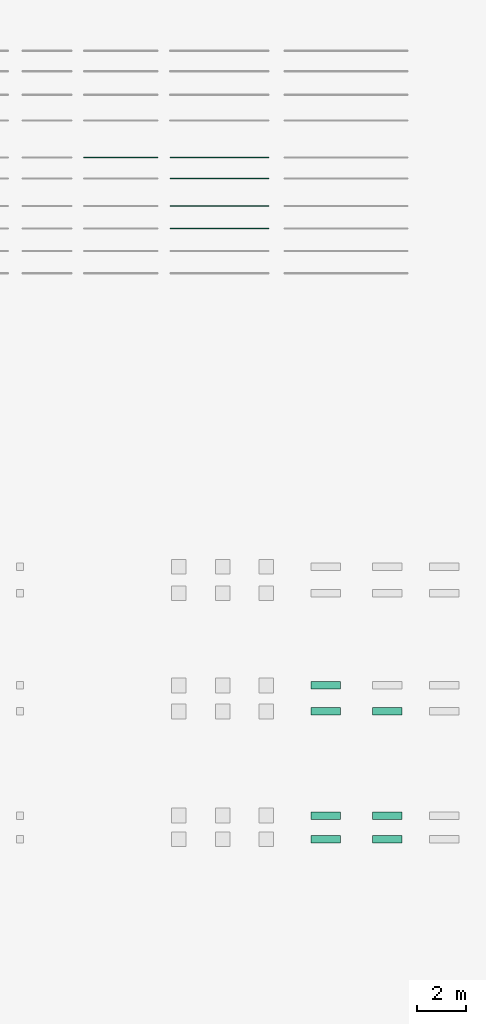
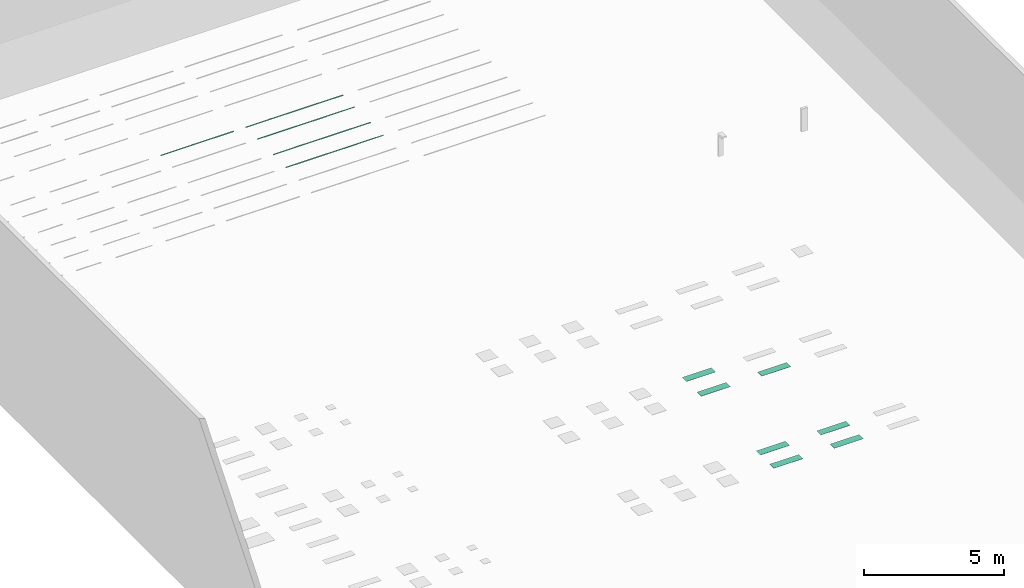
# One storey, part 8 of 197: 12 flow terminals.
"""IFC2X3 building model written with IfcOpenShell, lengths in metres."""

from ifc_helpers import new_model, entity, si_unit, converted_unit, direction, frame, frame_2d, origin, origin_2d_with_axis, place, context, subcontext, project, spatial, polyline, rectangle, circle, outline, extrude, source, transform, mapped, material, material_list, type_object, type_shapes, element, save


model = new_model("IFC2X3")

# Units and contexts
model_context = context("Model", 3, precision=1e-05, world=origin(), true_north=direction((6.123031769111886e-17, 1.0)))
body_context = subcontext(model_context, "Body", "Model", "MODEL_VIEW")
ifc_project = project(units=[si_unit("LENGTHUNIT", "METRE"), converted_unit("PLANEANGLEUNIT", "DEGREE", entity("IfcPlaneAngleMeasure", 0.017453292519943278), si_unit("PLANEANGLEUNIT", "RADIAN"), dimensions=[0, 0, 0, 0, 0, 0, 0]), si_unit("AREAUNIT", "SQUARE_METRE")], contexts=[model_context])

# Site, building, storey
site_placement = place(None, origin())
site = spatial("IfcSite", under=ifc_project, at=site_placement, Name="Default", CompositionType="ELEMENT")
building_placement = place(site_placement, origin())
building = spatial("IfcBuilding", under=site, at=building_placement, CompositionType="ELEMENT")
storey_placement = place(building_placement, origin())
storey = spatial("IfcBuildingStorey", under=building, at=storey_placement, Name="Niveau 0", CompositionType="ELEMENT", Elevation=0.0)

# Flow terminals
ifc_material_1 = material(Name="BETCE-DIFFUSEUR-BLANC")
ifc_material_2 = material(Name="<Unnamed>")
ifc_material_list_1 = material_list([ifc_material_1, ifc_material_2])
light_fixture_type_1 = type_object("IfcLightFixtureType", Name="Profilé alu sailli_suspendu_engravure-20X20:PROF-SAILLIE -3M", PredefinedType="NOTDEFINED", material=ifc_material_list_1)
shared_shape_1 = source(origin(), body_context, "Body", "SweptSolid", [
    extrude(rectangle(XDim=2.9959999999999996, YDim=0.018935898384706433, at=origin_2d_with_axis()), frame((0.0, 0.0, 1.4999999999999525), z_axis=(0.0, 0.0, 1.0), x_axis=(-1.0, 0.0, 0.0)), (0.0, 0.0, 1.0), 0.0008000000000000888),
    extrude(outline(polyline([(0.004349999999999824, -0.009467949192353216), (0.0051499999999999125, -0.009467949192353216), (0.0051499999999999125, 0.009467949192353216), (0.004349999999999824, 0.009467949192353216), (0.004349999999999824, 0.010467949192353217), (-0.0138500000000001, 0.010467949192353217), (-0.0138500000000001, -0.010467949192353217), (0.004349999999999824, -0.010467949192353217), (0.004349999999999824, -0.009467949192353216)])), frame((1.4979999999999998, 0.0, 1.5051499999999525), z_axis=(1.0, 0.0, 0.0), x_axis=(0.0, 0.0, -1.0)), (0.0, 0.0, 1.0), 0.0020000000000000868),
    extrude(outline(polyline([(0.009467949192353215, -0.004349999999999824), (0.010467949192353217, -0.004349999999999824), (0.010467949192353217, 0.0138500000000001), (-0.010467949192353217, 0.0138500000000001), (-0.010467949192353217, -0.004349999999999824), (-0.009467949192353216, -0.004349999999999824), (-0.009467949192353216, -0.0051499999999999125), (0.009467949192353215, -0.0051499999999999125), (0.009467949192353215, -0.004349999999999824)])), frame((-1.4999999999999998, 0.0, 1.5051499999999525), z_axis=(1.0, 0.0, 0.0), x_axis=(0.0, 1.0, 0.0)), (0.0, 0.0, 1.0), 0.0020000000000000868),
    extrude(outline(polyline([(-0.012292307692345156, -0.011500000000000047), (0.007707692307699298, -0.011500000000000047), (0.007707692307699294, -0.009467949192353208), (0.0069076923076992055, -0.009467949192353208), (0.006907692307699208, -0.010467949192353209), (-0.011292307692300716, -0.010467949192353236), (-0.011292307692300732, 0.0), (-0.011292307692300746, 0.010467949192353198), (0.006907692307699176, 0.010467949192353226), (0.006907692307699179, 0.009467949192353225), (0.0077076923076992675, 0.009467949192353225), (0.007707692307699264, 0.011500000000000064), (-0.012292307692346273, 0.011500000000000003), (-0.012292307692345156, -0.011500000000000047)])), frame((-1.4999999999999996, 0.0, 1.5077076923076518), z_axis=(1.0, 0.0, 0.0), x_axis=(0.0, 0.0, -1.0)), (0.0, 0.0, 1.0), 2.9999999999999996),
    extrude(circle(Radius=0.0019999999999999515, at=frame_2d((1.5388467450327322e-29, 0.0), x_axis=(1.0, 0.0))), frame((-1.3999999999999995, 0.0, 1.5199999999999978), z_axis=(0.0, 0.0, 1.0), x_axis=(0.0, -1.0, 0.0)), (0.0, 0.0, 1.0), 0.0010000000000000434),
    extrude(circle(Radius=0.0019999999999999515, at=frame_2d((-4.123551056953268e-20, 0.0), x_axis=(1.0, 0.0))), frame((1.4000000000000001, 0.0, 1.5199999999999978), z_axis=(0.0, 0.0, 1.0), x_axis=(0.0, -1.0, 0.0)), (0.0, 0.0, 1.0), 0.0010000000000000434),
])
type_shapes(light_fixture_type_1, [shared_shape_1])
flow_terminal_1_placement = place(storey_placement, frame((-527.4987105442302, 64.29268111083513, 0.0)))
element("IfcFlowTerminal", 1, at=flow_terminal_1_placement, inside=storey, type_object=light_fixture_type_1, material=ifc_material_list_1, Name="Profilé alu sailli_suspendu_engravure-20X20:PROF-SAILLIE -3M", ObjectType="Profilé alu sailli_suspendu_engravure-20X20:PROF-SAILLIE -3M", context=body_context, shape_type="MappedRepresentation", body=[
    mapped(shared_shape_1, transform((0.0, 0.0, 0.0), scale=1.0)),
])
light_fixture_type_2 = type_object("IfcLightFixtureType", Name="Profilé alu sailli_suspendu_engravure-20X20:PROF-SAILLIE -4M", PredefinedType="NOTDEFINED", material=ifc_material_list_1)
shared_shape_2 = source(origin(), body_context, "Body", "SweptSolid", [
    extrude(rectangle(XDim=3.9959999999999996, YDim=0.018935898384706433, at=origin_2d_with_axis()), frame((0.0, 0.0, 1.4999999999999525), z_axis=(0.0, 0.0, 1.0), x_axis=(-1.0, 0.0, 0.0)), (0.0, 0.0, 1.0), 0.0008000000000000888),
    extrude(outline(polyline([(0.004349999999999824, -0.009467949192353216), (0.0051499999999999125, -0.009467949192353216), (0.0051499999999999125, 0.009467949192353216), (0.004349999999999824, 0.009467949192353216), (0.004349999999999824, 0.010467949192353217), (-0.0138500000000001, 0.010467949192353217), (-0.0138500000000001, -0.010467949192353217), (0.004349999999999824, -0.010467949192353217), (0.004349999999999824, -0.009467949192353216)])), frame((1.998, 0.0, 1.5051499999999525), z_axis=(1.0, 0.0, 0.0), x_axis=(0.0, 0.0, -1.0)), (0.0, 0.0, 1.0), 0.0020000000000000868),
    extrude(outline(polyline([(0.009467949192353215, -0.004349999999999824), (0.010467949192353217, -0.004349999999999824), (0.010467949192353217, 0.0138500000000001), (-0.010467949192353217, 0.0138500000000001), (-0.010467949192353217, -0.004349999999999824), (-0.009467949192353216, -0.004349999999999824), (-0.009467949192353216, -0.0051499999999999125), (0.009467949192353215, -0.0051499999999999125), (0.009467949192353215, -0.004349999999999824)])), frame((-2.0, 0.0, 1.5051499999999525), z_axis=(1.0, 0.0, 0.0), x_axis=(0.0, 1.0, 0.0)), (0.0, 0.0, 1.0), 0.0020000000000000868),
    extrude(outline(polyline([(-0.012292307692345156, -0.011500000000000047), (0.007707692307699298, -0.011500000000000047), (0.007707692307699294, -0.009467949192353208), (0.0069076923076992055, -0.009467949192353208), (0.006907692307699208, -0.010467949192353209), (-0.011292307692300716, -0.010467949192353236), (-0.011292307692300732, 0.0), (-0.011292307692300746, 0.010467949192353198), (0.006907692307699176, 0.010467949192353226), (0.006907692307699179, 0.009467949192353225), (0.0077076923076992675, 0.009467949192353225), (0.007707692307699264, 0.011500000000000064), (-0.012292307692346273, 0.011500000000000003), (-0.012292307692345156, -0.011500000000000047)])), frame((-2.0, 0.0, 1.5077076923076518), z_axis=(1.0, 0.0, 0.0), x_axis=(0.0, 0.0, -1.0)), (0.0, 0.0, 1.0), 3.9999999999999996),
    extrude(circle(Radius=0.0019999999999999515, at=frame_2d((1.5388467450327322e-29, 0.0), x_axis=(1.0, 0.0))), frame((-1.8999999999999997, 0.0, 1.5199999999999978), z_axis=(0.0, 0.0, 1.0), x_axis=(0.0, -1.0, 0.0)), (0.0, 0.0, 1.0), 0.0010000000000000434),
    extrude(circle(Radius=0.0019999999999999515, at=frame_2d((-4.123551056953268e-20, 0.0), x_axis=(1.0, 0.0))), frame((1.9000000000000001, 0.0, 1.5199999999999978), z_axis=(0.0, 0.0, 1.0), x_axis=(0.0, -1.0, 0.0)), (0.0, 0.0, 1.0), 0.0010000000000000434),
])
type_shapes(light_fixture_type_2, [shared_shape_2])
flow_terminal_2_placement = place(storey_placement, frame((-523.4967105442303, 64.29268111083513, 0.0)))
element("IfcFlowTerminal", 2, at=flow_terminal_2_placement, inside=storey, type_object=light_fixture_type_2, material=ifc_material_list_1, Name="Profilé alu sailli_suspendu_engravure-20X20:PROF-SAILLIE -4M", ObjectType="Profilé alu sailli_suspendu_engravure-20X20:PROF-SAILLIE -4M", context=body_context, shape_type="MappedRepresentation", body=[
    mapped(shared_shape_2, transform((0.0, 0.0, 0.0), scale=1.0)),
])
light_fixture_type_3 = type_object("IfcLightFixtureType", Name="Profilé alu sailli_suspendu_engravure-20X20:PROF-SAILLIE DALI -4M", PredefinedType="NOTDEFINED", material=ifc_material_list_1)
shared_shape_3 = source(origin(), body_context, "Body", "SweptSolid", [
    extrude(rectangle(XDim=3.9959999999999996, YDim=0.018935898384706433, at=origin_2d_with_axis()), frame((0.0, 0.0, 1.4999999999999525), z_axis=(0.0, 0.0, 1.0), x_axis=(-1.0, 0.0, 0.0)), (0.0, 0.0, 1.0), 0.0008000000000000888),
    extrude(outline(polyline([(0.004349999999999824, -0.009467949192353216), (0.0051499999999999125, -0.009467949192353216), (0.0051499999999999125, 0.009467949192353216), (0.004349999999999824, 0.009467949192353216), (0.004349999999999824, 0.010467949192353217), (-0.0138500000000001, 0.010467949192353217), (-0.0138500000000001, -0.010467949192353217), (0.004349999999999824, -0.010467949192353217), (0.004349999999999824, -0.009467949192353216)])), frame((1.998, 0.0, 1.5051499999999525), z_axis=(1.0, 0.0, 0.0), x_axis=(0.0, 0.0, -1.0)), (0.0, 0.0, 1.0), 0.0020000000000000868),
    extrude(outline(polyline([(0.009467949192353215, -0.004349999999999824), (0.010467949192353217, -0.004349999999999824), (0.010467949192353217, 0.0138500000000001), (-0.010467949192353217, 0.0138500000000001), (-0.010467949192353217, -0.004349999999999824), (-0.009467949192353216, -0.004349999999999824), (-0.009467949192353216, -0.0051499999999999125), (0.009467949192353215, -0.0051499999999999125), (0.009467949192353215, -0.004349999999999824)])), frame((-2.0, 0.0, 1.5051499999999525), z_axis=(1.0, 0.0, 0.0), x_axis=(0.0, 1.0, 0.0)), (0.0, 0.0, 1.0), 0.0020000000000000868),
    extrude(outline(polyline([(-0.012292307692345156, -0.011500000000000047), (0.007707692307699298, -0.011500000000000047), (0.007707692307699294, -0.009467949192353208), (0.0069076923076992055, -0.009467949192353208), (0.006907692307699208, -0.010467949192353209), (-0.011292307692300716, -0.010467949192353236), (-0.011292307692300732, 0.0), (-0.011292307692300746, 0.010467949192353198), (0.006907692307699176, 0.010467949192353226), (0.006907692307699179, 0.009467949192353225), (0.0077076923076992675, 0.009467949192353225), (0.007707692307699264, 0.011500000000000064), (-0.012292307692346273, 0.011500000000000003), (-0.012292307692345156, -0.011500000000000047)])), frame((-2.0, 0.0, 1.5077076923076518), z_axis=(1.0, 0.0, 0.0), x_axis=(0.0, 0.0, -1.0)), (0.0, 0.0, 1.0), 3.9999999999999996),
    extrude(circle(Radius=0.0019999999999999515, at=frame_2d((1.5388467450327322e-29, 0.0), x_axis=(1.0, 0.0))), frame((-1.8999999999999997, 0.0, 1.5199999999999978), z_axis=(0.0, 0.0, 1.0), x_axis=(0.0, -1.0, 0.0)), (0.0, 0.0, 1.0), 0.0010000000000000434),
    extrude(circle(Radius=0.0019999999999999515, at=frame_2d((-4.123551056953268e-20, 0.0), x_axis=(1.0, 0.0))), frame((1.9000000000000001, 0.0, 1.5199999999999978), z_axis=(0.0, 0.0, 1.0), x_axis=(0.0, -1.0, 0.0)), (0.0, 0.0, 1.0), 0.0010000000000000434),
])
type_shapes(light_fixture_type_3, [shared_shape_3])
flow_terminal_3_placement = place(storey_placement, frame((-523.4967105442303, 63.44635524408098, 0.0)))
element("IfcFlowTerminal", 3, at=flow_terminal_3_placement, inside=storey, type_object=light_fixture_type_3, material=ifc_material_list_1, Name="Profilé alu sailli_suspendu_engravure-20X20:PROF-SAILLIE DALI -4M", ObjectType="Profilé alu sailli_suspendu_engravure-20X20:PROF-SAILLIE DALI -4M", context=body_context, shape_type="MappedRepresentation", body=[
    mapped(shared_shape_3, transform((0.0, 0.0, 0.0), scale=1.0)),
])
light_fixture_type_4 = type_object("IfcLightFixtureType", Name="Profilé alu sailli_suspendu_engravure-20X20:PROF-SUSPENDU -4M", PredefinedType="NOTDEFINED", material=ifc_material_list_1)
shared_shape_4 = source(origin(), body_context, "Body", "SweptSolid", [
    extrude(rectangle(XDim=3.9959999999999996, YDim=0.018935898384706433, at=origin_2d_with_axis()), frame((0.0, 0.0, 1.4999999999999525), z_axis=(0.0, 0.0, 1.0), x_axis=(-1.0, 0.0, 0.0)), (0.0, 0.0, 1.0), 0.0008000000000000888),
    extrude(outline(polyline([(0.004349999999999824, -0.009467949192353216), (0.0051499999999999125, -0.009467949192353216), (0.0051499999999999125, 0.009467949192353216), (0.004349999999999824, 0.009467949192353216), (0.004349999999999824, 0.010467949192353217), (-0.0138500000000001, 0.010467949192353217), (-0.0138500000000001, -0.010467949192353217), (0.004349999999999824, -0.010467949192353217), (0.004349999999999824, -0.009467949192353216)])), frame((1.998, 0.0, 1.5051499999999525), z_axis=(1.0, 0.0, 0.0), x_axis=(0.0, 0.0, -1.0)), (0.0, 0.0, 1.0), 0.0020000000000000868),
    extrude(outline(polyline([(0.009467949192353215, -0.004349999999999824), (0.010467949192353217, -0.004349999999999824), (0.010467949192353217, 0.0138500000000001), (-0.010467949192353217, 0.0138500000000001), (-0.010467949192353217, -0.004349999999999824), (-0.009467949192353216, -0.004349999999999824), (-0.009467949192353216, -0.0051499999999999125), (0.009467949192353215, -0.0051499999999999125), (0.009467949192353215, -0.004349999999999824)])), frame((-2.0, 0.0, 1.5051499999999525), z_axis=(1.0, 0.0, 0.0), x_axis=(0.0, 1.0, 0.0)), (0.0, 0.0, 1.0), 0.0020000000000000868),
    extrude(outline(polyline([(-0.012292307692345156, -0.011500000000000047), (0.007707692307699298, -0.011500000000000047), (0.007707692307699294, -0.009467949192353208), (0.0069076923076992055, -0.009467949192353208), (0.006907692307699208, -0.010467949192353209), (-0.011292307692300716, -0.010467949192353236), (-0.011292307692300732, 0.0), (-0.011292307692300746, 0.010467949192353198), (0.006907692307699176, 0.010467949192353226), (0.006907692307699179, 0.009467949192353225), (0.0077076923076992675, 0.009467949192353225), (0.007707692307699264, 0.011500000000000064), (-0.012292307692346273, 0.011500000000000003), (-0.012292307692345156, -0.011500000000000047)])), frame((-2.0, 0.0, 1.5077076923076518), z_axis=(1.0, 0.0, 0.0), x_axis=(0.0, 0.0, -1.0)), (0.0, 0.0, 1.0), 3.9999999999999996),
    extrude(circle(Radius=0.0019999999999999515, at=frame_2d((1.5388467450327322e-29, 0.0), x_axis=(1.0, 0.0))), frame((-1.8999999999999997, 0.0, 1.5199999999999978), z_axis=(0.0, 0.0, 1.0), x_axis=(0.0, -1.0, 0.0)), (0.0, 0.0, 1.0), 0.0010000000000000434),
    extrude(circle(Radius=0.0019999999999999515, at=frame_2d((-4.123551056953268e-20, 0.0), x_axis=(1.0, 0.0))), frame((1.9000000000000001, 0.0, 1.5199999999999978), z_axis=(0.0, 0.0, 1.0), x_axis=(0.0, -1.0, 0.0)), (0.0, 0.0, 1.0), 0.0010000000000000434),
])
type_shapes(light_fixture_type_4, [shared_shape_4])
flow_terminal_4_placement = place(storey_placement, frame((-523.4967105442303, 62.331355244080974, 0.0)))
element("IfcFlowTerminal", 4, at=flow_terminal_4_placement, inside=storey, type_object=light_fixture_type_4, material=ifc_material_list_1, Name="Profilé alu sailli_suspendu_engravure-20X20:PROF-SUSPENDU -4M", ObjectType="Profilé alu sailli_suspendu_engravure-20X20:PROF-SUSPENDU -4M", context=body_context, shape_type="MappedRepresentation", body=[
    mapped(shared_shape_4, transform((0.0, 0.0, 0.0), scale=1.0)),
])
light_fixture_type_5 = type_object("IfcLightFixtureType", Name="Profilé alu sailli_suspendu_engravure-20X20:PROF-SUSPENDU DALI -4M", PredefinedType="NOTDEFINED", material=ifc_material_list_1)
shared_shape_5 = source(origin(), body_context, "Body", "SweptSolid", [
    extrude(rectangle(XDim=3.9959999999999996, YDim=0.018935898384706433, at=origin_2d_with_axis()), frame((0.0, 0.0, 1.4999999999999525), z_axis=(0.0, 0.0, 1.0), x_axis=(-1.0, 0.0, 0.0)), (0.0, 0.0, 1.0), 0.0008000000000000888),
    extrude(outline(polyline([(0.004349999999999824, -0.009467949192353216), (0.0051499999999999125, -0.009467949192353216), (0.0051499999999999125, 0.009467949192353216), (0.004349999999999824, 0.009467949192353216), (0.004349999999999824, 0.010467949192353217), (-0.0138500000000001, 0.010467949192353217), (-0.0138500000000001, -0.010467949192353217), (0.004349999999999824, -0.010467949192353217), (0.004349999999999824, -0.009467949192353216)])), frame((1.998, 0.0, 1.5051499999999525), z_axis=(1.0, 0.0, 0.0), x_axis=(0.0, 0.0, -1.0)), (0.0, 0.0, 1.0), 0.0020000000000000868),
    extrude(outline(polyline([(0.009467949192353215, -0.004349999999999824), (0.010467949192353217, -0.004349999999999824), (0.010467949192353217, 0.0138500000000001), (-0.010467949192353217, 0.0138500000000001), (-0.010467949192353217, -0.004349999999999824), (-0.009467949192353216, -0.004349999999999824), (-0.009467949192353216, -0.0051499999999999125), (0.009467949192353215, -0.0051499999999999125), (0.009467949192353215, -0.004349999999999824)])), frame((-2.0, 0.0, 1.5051499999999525), z_axis=(1.0, 0.0, 0.0), x_axis=(0.0, 1.0, 0.0)), (0.0, 0.0, 1.0), 0.0020000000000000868),
    extrude(outline(polyline([(-0.012292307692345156, -0.011500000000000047), (0.007707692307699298, -0.011500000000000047), (0.007707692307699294, -0.009467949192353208), (0.0069076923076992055, -0.009467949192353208), (0.006907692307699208, -0.010467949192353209), (-0.011292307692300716, -0.010467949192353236), (-0.011292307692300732, 0.0), (-0.011292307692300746, 0.010467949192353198), (0.006907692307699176, 0.010467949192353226), (0.006907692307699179, 0.009467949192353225), (0.0077076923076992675, 0.009467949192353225), (0.007707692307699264, 0.011500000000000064), (-0.012292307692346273, 0.011500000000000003), (-0.012292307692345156, -0.011500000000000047)])), frame((-2.0, 0.0, 1.5077076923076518), z_axis=(1.0, 0.0, 0.0), x_axis=(0.0, 0.0, -1.0)), (0.0, 0.0, 1.0), 3.9999999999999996),
    extrude(circle(Radius=0.0019999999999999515, at=frame_2d((1.5388467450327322e-29, 0.0), x_axis=(1.0, 0.0))), frame((-1.8999999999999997, 0.0, 1.5199999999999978), z_axis=(0.0, 0.0, 1.0), x_axis=(0.0, -1.0, 0.0)), (0.0, 0.0, 1.0), 0.0010000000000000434),
    extrude(circle(Radius=0.0019999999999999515, at=frame_2d((-4.123551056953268e-20, 0.0), x_axis=(1.0, 0.0))), frame((1.9000000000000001, 0.0, 1.5199999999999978), z_axis=(0.0, 0.0, 1.0), x_axis=(0.0, -1.0, 0.0)), (0.0, 0.0, 1.0), 0.0010000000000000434),
])
type_shapes(light_fixture_type_5, [shared_shape_5])
flow_terminal_5_placement = place(storey_placement, frame((-523.4967105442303, 61.41235524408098, 0.0)))
element("IfcFlowTerminal", 5, at=flow_terminal_5_placement, inside=storey, type_object=light_fixture_type_5, material=ifc_material_list_1, Name="Profilé alu sailli_suspendu_engravure-20X20:PROF-SUSPENDU DALI -4M", ObjectType="Profilé alu sailli_suspendu_engravure-20X20:PROF-SUSPENDU DALI -4M", context=body_context, shape_type="MappedRepresentation", body=[
    mapped(shared_shape_5, transform((0.0, 0.0, 0.0), scale=1.0)),
])
ifc_material_3 = material(Name="BETCE-ENVELOPPE-BLANC")
ifc_material_list_2 = material_list([ifc_material_2, ifc_material_1, ifc_material_3])
light_fixture_type_6 = type_object("IfcLightFixtureType", Name="Pavé LED lentille encastré_saillie_suspendu:SAILLIE - 1200X300 - 1L DE 16", PredefinedType="NOTDEFINED", material=ifc_material_list_2)
shared_shape_6 = source(origin(), body_context, "Body", "SweptSolid", [
    extrude(circle(Radius=0.0014999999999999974, at=origin_2d_with_axis()), frame((0.5899999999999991, -0.14000000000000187, 1.51)), (0.0, 0.0, 1.0), 0.0010000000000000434),
    extrude(circle(Radius=0.0014999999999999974, at=origin_2d_with_axis()), frame((0.5899999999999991, 0.13999999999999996, 1.51)), (0.0, 0.0, 1.0), 0.0010000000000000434),
    extrude(circle(Radius=0.0014999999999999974, at=origin_2d_with_axis()), frame((-0.59, 0.13999999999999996, 1.51)), (0.0, 0.0, 1.0), 0.0010000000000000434),
    extrude(circle(Radius=0.0014999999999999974, at=origin_2d_with_axis()), frame((-0.59, -0.14000000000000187, 1.51)), (0.0, 0.0, 1.0), 0.0010000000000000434),
    extrude(rectangle(XDim=1.16, YDim=0.26, at=origin_2d_with_axis()), frame((0.0, 0.0, 1.5013367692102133), z_axis=(0.0, 0.0, 1.0), x_axis=(-1.0, 0.0, 0.0)), (0.0, 0.0, 1.0), 0.008663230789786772),
    extrude(outline(polyline([(-0.6, -0.15), (0.6, -0.15), (0.6, 0.15), (-0.6, 0.15), (-0.6, -0.15)]), holes=[polyline([(0.58, -0.13), (-0.5800000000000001, -0.13), (-0.5800000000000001, 0.13), (0.58, 0.13), (0.58, -0.13)])]), frame((0.0, 0.0, 1.499999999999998), z_axis=(0.0, 0.0, 1.0), x_axis=(-1.0, 0.0, 0.0)), (0.0, 0.0, 1.0), 0.010000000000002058),
])
type_shapes(light_fixture_type_6, [shared_shape_6])
flow_terminal_6_placement = place(storey_placement, frame((-519.1857105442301, 42.89135524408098, 0.0)))
element("IfcFlowTerminal", 6, at=flow_terminal_6_placement, inside=storey, type_object=light_fixture_type_6, material=ifc_material_list_2, Name="Pavé LED lentille encastré_saillie_suspendu:SAILLIE - 1200X300 - 1L DE 16", ObjectType="Pavé LED lentille encastré_saillie_suspendu:SAILLIE - 1200X300 - 1L DE 16", context=body_context, shape_type="MappedRepresentation", body=[
    mapped(shared_shape_6, transform((0.0, 0.0, 0.0), scale=1.0)),
])
light_fixture_type_7 = type_object("IfcLightFixtureType", Name="Pavé LED lentille encastré_saillie_suspendu:SAILLIE DALI - 1200X300 - 1L DE 16", PredefinedType="NOTDEFINED", material=ifc_material_list_2)
shared_shape_7 = source(origin(), body_context, "Body", "SweptSolid", [
    extrude(circle(Radius=0.0014999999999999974, at=origin_2d_with_axis()), frame((0.5899999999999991, -0.14000000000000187, 1.51)), (0.0, 0.0, 1.0), 0.0010000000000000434),
    extrude(circle(Radius=0.0014999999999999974, at=origin_2d_with_axis()), frame((0.5899999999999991, 0.13999999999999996, 1.51)), (0.0, 0.0, 1.0), 0.0010000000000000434),
    extrude(circle(Radius=0.0014999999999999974, at=origin_2d_with_axis()), frame((-0.59, 0.13999999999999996, 1.51)), (0.0, 0.0, 1.0), 0.0010000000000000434),
    extrude(circle(Radius=0.0014999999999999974, at=origin_2d_with_axis()), frame((-0.59, -0.14000000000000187, 1.51)), (0.0, 0.0, 1.0), 0.0010000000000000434),
    extrude(rectangle(XDim=1.16, YDim=0.26, at=origin_2d_with_axis()), frame((0.0, 0.0, 1.5013367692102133), z_axis=(0.0, 0.0, 1.0), x_axis=(-1.0, 0.0, 0.0)), (0.0, 0.0, 1.0), 0.008663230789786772),
    extrude(outline(polyline([(-0.6, -0.15), (0.6, -0.15), (0.6, 0.15), (-0.6, 0.15), (-0.6, -0.15)]), holes=[polyline([(0.58, -0.13), (-0.5800000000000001, -0.13), (-0.5800000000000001, 0.13), (0.58, 0.13), (0.58, -0.13)])]), frame((0.0, 0.0, 1.499999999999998), z_axis=(0.0, 0.0, 1.0), x_axis=(-1.0, 0.0, 0.0)), (0.0, 0.0, 1.0), 0.010000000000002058),
])
type_shapes(light_fixture_type_7, [shared_shape_7])
flow_terminal_7_placement = place(storey_placement, frame((-519.1857105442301, 41.83535524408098, 0.0)))
element("IfcFlowTerminal", 7, at=flow_terminal_7_placement, inside=storey, type_object=light_fixture_type_7, material=ifc_material_list_2, Name="Pavé LED lentille encastré_saillie_suspendu:SAILLIE DALI - 1200X300 - 1L DE 16", ObjectType="Pavé LED lentille encastré_saillie_suspendu:SAILLIE DALI - 1200X300 - 1L DE 16", context=body_context, shape_type="MappedRepresentation", body=[
    mapped(shared_shape_7, transform((0.0, 0.0, 0.0), scale=1.0)),
])
light_fixture_type_8 = type_object("IfcLightFixtureType", Name="Pavé LED lentille encastré_saillie_suspendu:SAILLIE DALI - 1200X300 - 2L DE 8", PredefinedType="NOTDEFINED", material=ifc_material_list_2)
shared_shape_8 = source(origin(), body_context, "Body", "SweptSolid", [
    extrude(circle(Radius=0.0014999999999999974, at=origin_2d_with_axis()), frame((0.5899999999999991, -0.14000000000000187, 1.51)), (0.0, 0.0, 1.0), 0.0010000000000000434),
    extrude(circle(Radius=0.0014999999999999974, at=origin_2d_with_axis()), frame((0.5899999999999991, 0.13999999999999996, 1.51)), (0.0, 0.0, 1.0), 0.0010000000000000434),
    extrude(circle(Radius=0.0014999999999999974, at=origin_2d_with_axis()), frame((-0.59, 0.13999999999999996, 1.51)), (0.0, 0.0, 1.0), 0.0010000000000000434),
    extrude(circle(Radius=0.0014999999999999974, at=origin_2d_with_axis()), frame((-0.59, -0.14000000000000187, 1.51)), (0.0, 0.0, 1.0), 0.0010000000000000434),
    extrude(rectangle(XDim=1.16, YDim=0.26, at=origin_2d_with_axis()), frame((0.0, 0.0, 1.5013367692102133), z_axis=(0.0, 0.0, 1.0), x_axis=(-1.0, 0.0, 0.0)), (0.0, 0.0, 1.0), 0.008663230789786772),
    extrude(outline(polyline([(-0.6, -0.15), (0.6, -0.15), (0.6, 0.15), (-0.6, 0.15), (-0.6, -0.15)]), holes=[polyline([(0.58, -0.13), (-0.5800000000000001, -0.13), (-0.5800000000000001, 0.13), (0.58, 0.13), (0.58, -0.13)])]), frame((0.0, 0.0, 1.499999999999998), z_axis=(0.0, 0.0, 1.0), x_axis=(-1.0, 0.0, 0.0)), (0.0, 0.0, 1.0), 0.010000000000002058),
])
type_shapes(light_fixture_type_8, [shared_shape_8])
flow_terminal_8_placement = place(storey_placement, frame((-516.6957105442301, 41.83535524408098, 0.0)))
element("IfcFlowTerminal", 8, at=flow_terminal_8_placement, inside=storey, type_object=light_fixture_type_8, material=ifc_material_list_2, Name="Pavé LED lentille encastré_saillie_suspendu:SAILLIE DALI - 1200X300 - 2L DE 8", ObjectType="Pavé LED lentille encastré_saillie_suspendu:SAILLIE DALI - 1200X300 - 2L DE 8", context=body_context, shape_type="MappedRepresentation", body=[
    mapped(shared_shape_8, transform((0.0, 0.0, 0.0), scale=1.0)),
])
light_fixture_type_9 = type_object("IfcLightFixtureType", Name="Pavé LED lentille encastré_saillie_suspendu:SUSPENDU - 1200X300 - 1L DE 16", PredefinedType="NOTDEFINED", material=ifc_material_list_2)
shared_shape_9 = source(origin(), body_context, "Body", "SweptSolid", [
    extrude(circle(Radius=0.0014999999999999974, at=origin_2d_with_axis()), frame((0.5899999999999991, -0.14000000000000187, 1.51)), (0.0, 0.0, 1.0), 0.0010000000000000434),
    extrude(circle(Radius=0.0014999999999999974, at=origin_2d_with_axis()), frame((0.5899999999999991, 0.13999999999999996, 1.51)), (0.0, 0.0, 1.0), 0.0010000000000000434),
    extrude(circle(Radius=0.0014999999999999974, at=origin_2d_with_axis()), frame((-0.59, 0.13999999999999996, 1.51)), (0.0, 0.0, 1.0), 0.0010000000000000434),
    extrude(circle(Radius=0.0014999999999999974, at=origin_2d_with_axis()), frame((-0.59, -0.14000000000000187, 1.51)), (0.0, 0.0, 1.0), 0.0010000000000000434),
    extrude(rectangle(XDim=1.16, YDim=0.26, at=origin_2d_with_axis()), frame((0.0, 0.0, 1.5013367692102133), z_axis=(0.0, 0.0, 1.0), x_axis=(-1.0, 0.0, 0.0)), (0.0, 0.0, 1.0), 0.008663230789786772),
    extrude(outline(polyline([(-0.6, -0.15), (0.6, -0.15), (0.6, 0.15), (-0.6, 0.15), (-0.6, -0.15)]), holes=[polyline([(0.58, -0.13), (-0.5800000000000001, -0.13), (-0.5800000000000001, 0.13), (0.58, 0.13), (0.58, -0.13)])]), frame((0.0, 0.0, 1.499999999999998), z_axis=(0.0, 0.0, 1.0), x_axis=(-1.0, 0.0, 0.0)), (0.0, 0.0, 1.0), 0.010000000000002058),
])
type_shapes(light_fixture_type_9, [shared_shape_9])
flow_terminal_9_placement = place(storey_placement, frame((-519.1857105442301, 37.61435524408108, 0.0)))
element("IfcFlowTerminal", 9, at=flow_terminal_9_placement, inside=storey, type_object=light_fixture_type_9, material=ifc_material_list_2, Name="Pavé LED lentille encastré_saillie_suspendu:SUSPENDU - 1200X300 - 1L DE 16", ObjectType="Pavé LED lentille encastré_saillie_suspendu:SUSPENDU - 1200X300 - 1L DE 16", context=body_context, shape_type="MappedRepresentation", body=[
    mapped(shared_shape_9, transform((0.0, 0.0, 0.0), scale=1.0)),
])
light_fixture_type_10 = type_object("IfcLightFixtureType", Name="Pavé LED lentille encastré_saillie_suspendu:SUSPENDU - 1200X300 - 2L DE 8", PredefinedType="NOTDEFINED", material=ifc_material_list_2)
shared_shape_10 = source(origin(), body_context, "Body", "SweptSolid", [
    extrude(circle(Radius=0.0014999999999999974, at=origin_2d_with_axis()), frame((0.5899999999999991, -0.14000000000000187, 1.51)), (0.0, 0.0, 1.0), 0.0010000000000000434),
    extrude(circle(Radius=0.0014999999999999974, at=origin_2d_with_axis()), frame((0.5899999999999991, 0.13999999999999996, 1.51)), (0.0, 0.0, 1.0), 0.0010000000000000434),
    extrude(circle(Radius=0.0014999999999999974, at=origin_2d_with_axis()), frame((-0.59, 0.13999999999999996, 1.51)), (0.0, 0.0, 1.0), 0.0010000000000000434),
    extrude(circle(Radius=0.0014999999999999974, at=origin_2d_with_axis()), frame((-0.59, -0.14000000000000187, 1.51)), (0.0, 0.0, 1.0), 0.0010000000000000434),
    extrude(rectangle(XDim=1.16, YDim=0.26, at=origin_2d_with_axis()), frame((0.0, 0.0, 1.5013367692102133), z_axis=(0.0, 0.0, 1.0), x_axis=(-1.0, 0.0, 0.0)), (0.0, 0.0, 1.0), 0.008663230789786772),
    extrude(outline(polyline([(-0.6, -0.15), (0.6, -0.15), (0.6, 0.15), (-0.6, 0.15), (-0.6, -0.15)]), holes=[polyline([(0.58, -0.13), (-0.5800000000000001, -0.13), (-0.5800000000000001, 0.13), (0.58, 0.13), (0.58, -0.13)])]), frame((0.0, 0.0, 1.499999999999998), z_axis=(0.0, 0.0, 1.0), x_axis=(-1.0, 0.0, 0.0)), (0.0, 0.0, 1.0), 0.010000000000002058),
])
type_shapes(light_fixture_type_10, [shared_shape_10])
flow_terminal_10_placement = place(storey_placement, frame((-516.6957105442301, 37.61435524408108, 0.0)))
element("IfcFlowTerminal", 10, at=flow_terminal_10_placement, inside=storey, type_object=light_fixture_type_10, material=ifc_material_list_2, Name="Pavé LED lentille encastré_saillie_suspendu:SUSPENDU - 1200X300 - 2L DE 8", ObjectType="Pavé LED lentille encastré_saillie_suspendu:SUSPENDU - 1200X300 - 2L DE 8", context=body_context, shape_type="MappedRepresentation", body=[
    mapped(shared_shape_10, transform((0.0, 0.0, 0.0), scale=1.0)),
])
light_fixture_type_11 = type_object("IfcLightFixtureType", Name="Pavé LED lentille encastré_saillie_suspendu:SUSPENDU DALI - 1200X300 - 1L DE 16", PredefinedType="NOTDEFINED", material=ifc_material_list_2)
shared_shape_11 = source(origin(), body_context, "Body", "SweptSolid", [
    extrude(circle(Radius=0.0014999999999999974, at=origin_2d_with_axis()), frame((0.5899999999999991, -0.14000000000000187, 1.51)), (0.0, 0.0, 1.0), 0.0010000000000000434),
    extrude(circle(Radius=0.0014999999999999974, at=origin_2d_with_axis()), frame((0.5899999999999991, 0.13999999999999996, 1.51)), (0.0, 0.0, 1.0), 0.0010000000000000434),
    extrude(circle(Radius=0.0014999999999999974, at=origin_2d_with_axis()), frame((-0.59, 0.13999999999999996, 1.51)), (0.0, 0.0, 1.0), 0.0010000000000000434),
    extrude(circle(Radius=0.0014999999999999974, at=origin_2d_with_axis()), frame((-0.59, -0.14000000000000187, 1.51)), (0.0, 0.0, 1.0), 0.0010000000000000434),
    extrude(rectangle(XDim=1.16, YDim=0.26, at=origin_2d_with_axis()), frame((0.0, 0.0, 1.5013367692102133), z_axis=(0.0, 0.0, 1.0), x_axis=(-1.0, 0.0, 0.0)), (0.0, 0.0, 1.0), 0.008663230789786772),
    extrude(outline(polyline([(-0.6, -0.15), (0.6, -0.15), (0.6, 0.15), (-0.6, 0.15), (-0.6, -0.15)]), holes=[polyline([(0.58, -0.13), (-0.5800000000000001, -0.13), (-0.5800000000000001, 0.13), (0.58, 0.13), (0.58, -0.13)])]), frame((0.0, 0.0, 1.499999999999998), z_axis=(0.0, 0.0, 1.0), x_axis=(-1.0, 0.0, 0.0)), (0.0, 0.0, 1.0), 0.010000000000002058),
])
type_shapes(light_fixture_type_11, [shared_shape_11])
flow_terminal_11_placement = place(storey_placement, frame((-519.1857105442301, 36.65835524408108, 0.0)))
element("IfcFlowTerminal", 11, at=flow_terminal_11_placement, inside=storey, type_object=light_fixture_type_11, material=ifc_material_list_2, Name="Pavé LED lentille encastré_saillie_suspendu:SUSPENDU DALI - 1200X300 - 1L DE 16", ObjectType="Pavé LED lentille encastré_saillie_suspendu:SUSPENDU DALI - 1200X300 - 1L DE 16", context=body_context, shape_type="MappedRepresentation", body=[
    mapped(shared_shape_11, transform((0.0, 0.0, 0.0), scale=1.0)),
])
light_fixture_type_12 = type_object("IfcLightFixtureType", Name="Pavé LED lentille encastré_saillie_suspendu:SUSPENDU DALI - 1200X300 - 2L DE 8", PredefinedType="NOTDEFINED", material=ifc_material_list_2)
shared_shape_12 = source(origin(), body_context, "Body", "SweptSolid", [
    extrude(circle(Radius=0.0014999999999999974, at=origin_2d_with_axis()), frame((0.5899999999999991, -0.14000000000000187, 1.51)), (0.0, 0.0, 1.0), 0.0010000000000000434),
    extrude(circle(Radius=0.0014999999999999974, at=origin_2d_with_axis()), frame((0.5899999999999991, 0.13999999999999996, 1.51)), (0.0, 0.0, 1.0), 0.0010000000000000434),
    extrude(circle(Radius=0.0014999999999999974, at=origin_2d_with_axis()), frame((-0.59, 0.13999999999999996, 1.51)), (0.0, 0.0, 1.0), 0.0010000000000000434),
    extrude(circle(Radius=0.0014999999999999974, at=origin_2d_with_axis()), frame((-0.59, -0.14000000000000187, 1.51)), (0.0, 0.0, 1.0), 0.0010000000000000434),
    extrude(rectangle(XDim=1.16, YDim=0.26, at=origin_2d_with_axis()), frame((0.0, 0.0, 1.5013367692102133), z_axis=(0.0, 0.0, 1.0), x_axis=(-1.0, 0.0, 0.0)), (0.0, 0.0, 1.0), 0.008663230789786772),
    extrude(outline(polyline([(-0.6, -0.15), (0.6, -0.15), (0.6, 0.15), (-0.6, 0.15), (-0.6, -0.15)]), holes=[polyline([(0.58, -0.13), (-0.5800000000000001, -0.13), (-0.5800000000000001, 0.13), (0.58, 0.13), (0.58, -0.13)])]), frame((0.0, 0.0, 1.499999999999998), z_axis=(0.0, 0.0, 1.0), x_axis=(-1.0, 0.0, 0.0)), (0.0, 0.0, 1.0), 0.010000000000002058),
])
type_shapes(light_fixture_type_12, [shared_shape_12])
flow_terminal_12_placement = place(storey_placement, frame((-516.6957105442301, 36.65835524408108, 0.0)))
element("IfcFlowTerminal", 12, at=flow_terminal_12_placement, inside=storey, type_object=light_fixture_type_12, material=ifc_material_list_2, Name="Pavé LED lentille encastré_saillie_suspendu:SUSPENDU DALI - 1200X300 - 2L DE 8", ObjectType="Pavé LED lentille encastré_saillie_suspendu:SUSPENDU DALI - 1200X300 - 2L DE 8", context=body_context, shape_type="MappedRepresentation", body=[
    mapped(shared_shape_12, transform((0.0, 0.0, 0.0), scale=1.0)),
])

save(model, "model.ifc")
